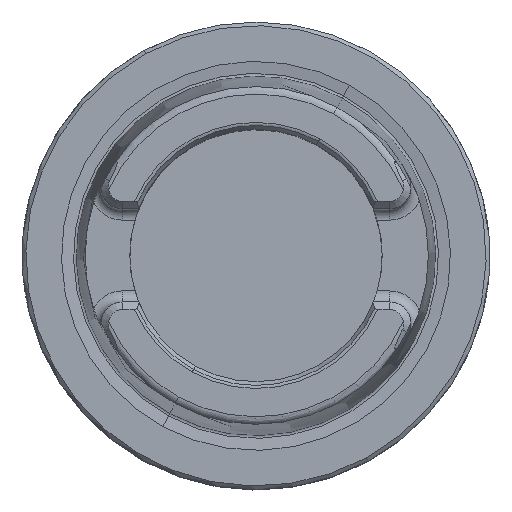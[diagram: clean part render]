
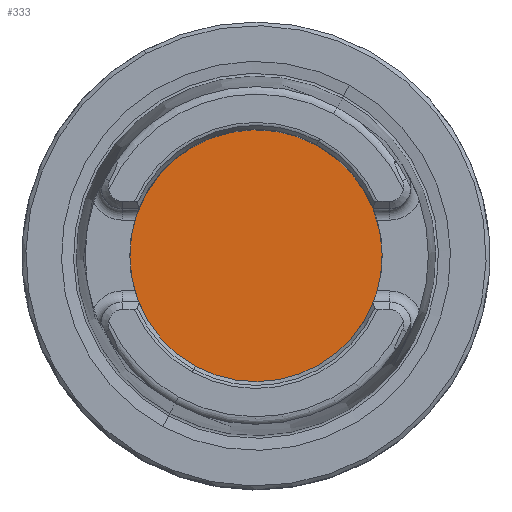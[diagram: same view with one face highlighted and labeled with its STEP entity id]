
A CAD part, top view. The second image highlights one B-rep face of the part: STEP entity #333.
In plain terms, the highlighted planar face has unit normal (0, 0, 1).
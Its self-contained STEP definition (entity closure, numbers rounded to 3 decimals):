
#265=AXIS2_PLACEMENT_3D('Circle Axis2P3D',#263,#264,$) ;
#322=AXIS2_PLACEMENT_3D('Plane Axis2P3D',#319,#320,#321) ;
#326=AXIS2_PLACEMENT_3D('Circle Axis2P3D',#324,#325,$) ;
#260=CARTESIAN_POINT('Vertex',(8.15,14.919,-10.)) ;
#263=CARTESIAN_POINT('Axis2P3D Location',(0.,0.,-10.)) ;
#267=CARTESIAN_POINT('Vertex',(-8.15,-14.919,-10.)) ;
#319=CARTESIAN_POINT('Axis2P3D Location',(0.,-15.75,-10.)) ;
#324=CARTESIAN_POINT('Axis2P3D Location',(0.,0.,-10.)) ;
#264=DIRECTION('Axis2P3D Direction',(0.,0.,-1.)) ;
#320=DIRECTION('Axis2P3D Direction',(0.,0.,-1.)) ;
#321=DIRECTION('Axis2P3D XDirection',(-1.,0.,0.)) ;
#325=DIRECTION('Axis2P3D Direction',(0.,0.,-1.)) ;
#330=ORIENTED_EDGE('',*,*,#328,.T.) ;
#331=ORIENTED_EDGE('',*,*,#269,.T.) ;
#333=ADVANCED_FACE('NO_CUT',(#332),#323,.F.) ;
#266=CIRCLE('generated circle',#265,17.) ;
#327=CIRCLE('generated circle',#326,17.) ;
#269=EDGE_CURVE('',#268,#261,#266,.F.) ;
#328=EDGE_CURVE('',#261,#268,#327,.F.) ;
#329=EDGE_LOOP('',(#330,#331)) ;
#332=FACE_OUTER_BOUND('',#329,.T.) ;
#323=PLANE('',#322) ;
#261=VERTEX_POINT('',#260) ;
#268=VERTEX_POINT('',#267) ;
